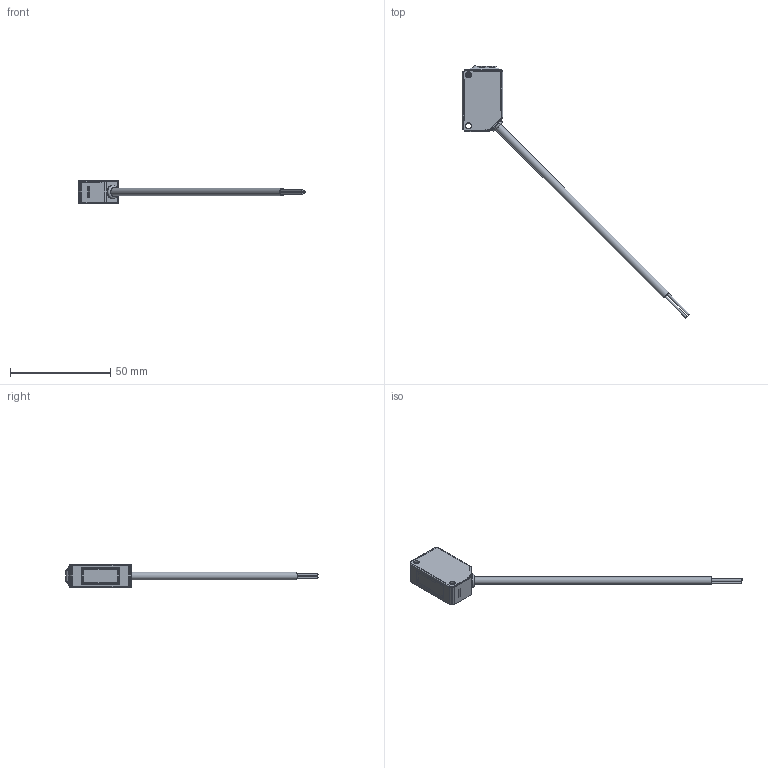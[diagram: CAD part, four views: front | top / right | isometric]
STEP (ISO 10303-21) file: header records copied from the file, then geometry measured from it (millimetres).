
FILE_DESCRIPTION(/* description */ (''),/* implementation_level */ '2;1');
FILE_NAME(/* name */ 'F:\HUAYIFENG\01)HUAYIFENG_宣传文件\01)HUAYIFENG_\X2\5BA34F2065874EF6\X0\_产品资料整合\03)产品3D文档\02)产品3D_2019_STP\02)产品3D_光电系列_K12_2019\LS201_211_D_TJ_3D.stp',/* time_stamp */ '2019-03-26T20:23:49+08:00',/* author */ ('fengjiarun'),/* organization */ (''),/* preprocessor_version */ 'ST-DEVELOPER v16.5',/* originating_system */ 'Autodesk Inventor 2017',/* authorisation */ '');
FILE_SCHEMA (('AUTOMOTIVE_DESIGN { 1 0 10303 214 3 1 1 }'));
Length unit declared in the file: millimetre
Products named in the file (1): 零件476
Bounding box: 113.27 x 125.76 x 11 mm (x, y, z)
Volume: 7597.4 mm3; surface area: 6272.4 mm2
Topology: 1 solids, 8 shells, 606 faces, 2039 edges, 1359 vertices
Faces by surface type: plane 292, cylinder 243, torus 37, bspline 32, sphere 2
Full cylindrical faces by diameter (mm): 1 x3, 3 x2, 3.42 x4, 3.5 x38, 3.55 x3, 3.8 x1, 4 x3, 4.2 x2, 4.5 x1, 6.8 x1
Entity records: 35748 total; most frequent: CARTESIAN_POINT 17568, DIRECTION 3854, ORIENTED_EDGE 3760, EDGE_CURVE 1880, AXIS2_PLACEMENT_3D 1497, VERTEX_POINT 1269, CIRCLE 954, LINE 860
